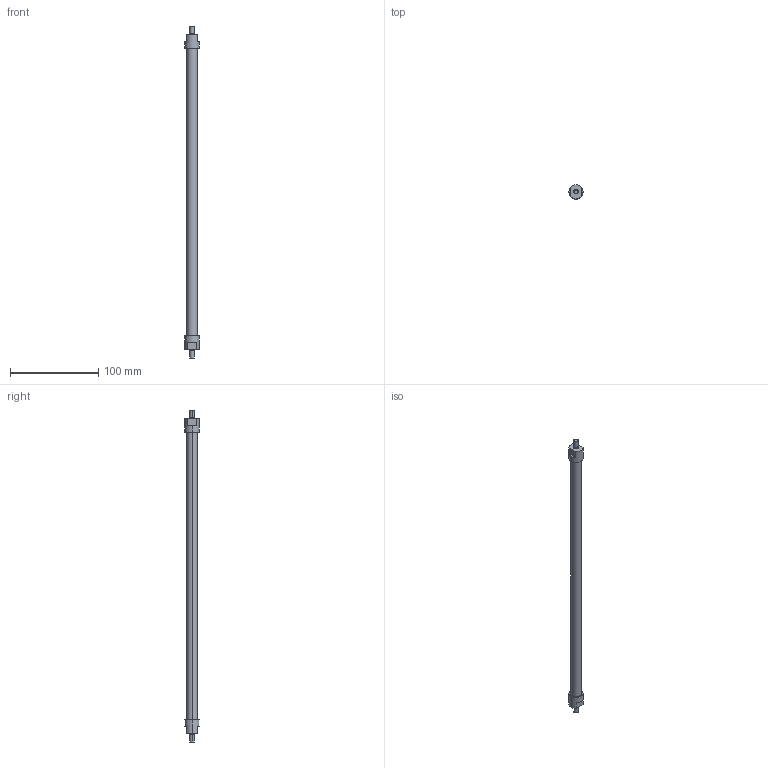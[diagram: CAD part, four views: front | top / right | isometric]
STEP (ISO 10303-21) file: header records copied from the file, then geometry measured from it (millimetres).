
FILE_DESCRIPTION(('STEP AP214'),'1');
FILE_NAME('ETT-R025N365.stp','2015-02-04T08:20:20',(' '),(' '),'Spatial InterOp 3D',' ',' ');
FILE_SCHEMA(('automotive_design'));
Length unit declared in the file: metre
Products named in the file (3): 1; 2; 3
Bounding box: 16 x 16 x 376 mm (x, y, z)
Volume: 42830.1 mm3; surface area: 14878.9 mm2
Topology: 1 solids, 7 shells, 30 faces, 81 edges, 63 vertices
Faces by surface type: plane 16, cylinder 14
Entity records: 1295 total; most frequent: DIRECTION 194, CARTESIAN_POINT 177, ORIENTED_EDGE 138, EDGE_CURVE 81, AXIS2_PLACEMENT_3D 80, VERTEX_POINT 63, CIRCLE 47, EDGE_LOOP 36
